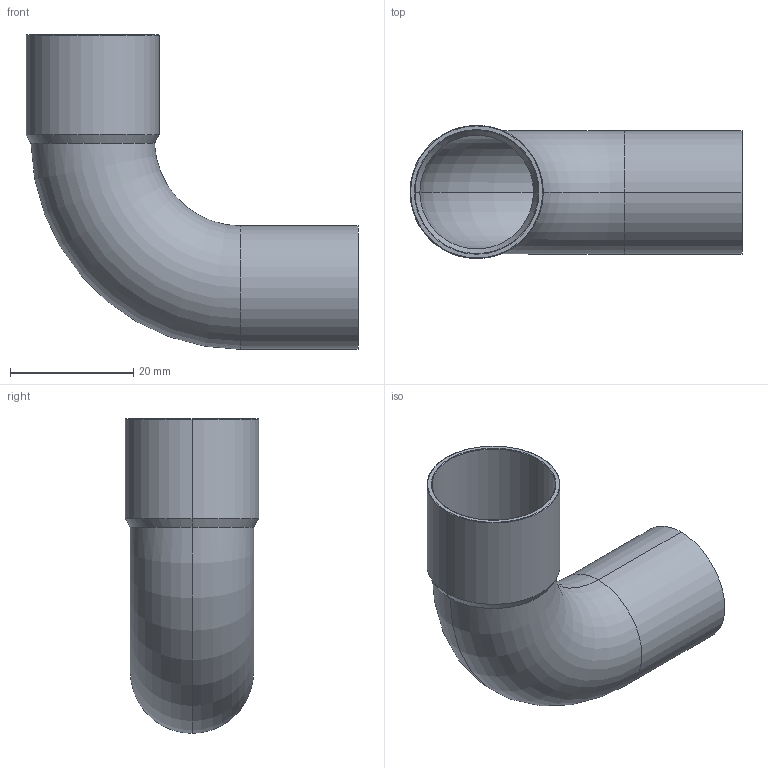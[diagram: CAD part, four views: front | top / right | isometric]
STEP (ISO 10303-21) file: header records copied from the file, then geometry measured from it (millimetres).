
FILE_DESCRIPTION((''),'2;1');
FILE_NAME('P:\Bouwmaten\z-maattekeningen 3D\5000\5001a\15001a20.stp','2005-10-04T14:36:41',('Kris'),(''),'Autodesk Inventor 8','Autodesk Inventor 8','');
FILE_SCHEMA(('AUTOMOTIVE_DESIGN { 1 0 10303 214 1 1 1 1 }'));
Length unit declared in the file: millimetre
Products named in the file (1): 15001a20
Bounding box: 53.8 x 21.6 x 51 mm (x, y, z)
Volume: 3634 mm3; surface area: 9179.5 mm2
Topology: 1 solids, 1 shells, 22 faces, 46 edges, 26 vertices
Faces by surface type: cone 8, cylinder 8, torus 4, plane 2
Entity records: 679 total; most frequent: CARTESIAN_POINT 171, DIRECTION 114, ORIENTED_EDGE 92, AXIS2_PLACEMENT_3D 49, EDGE_CURVE 46, VERTEX_POINT 26, CIRCLE 26, EDGE_LOOP 24
